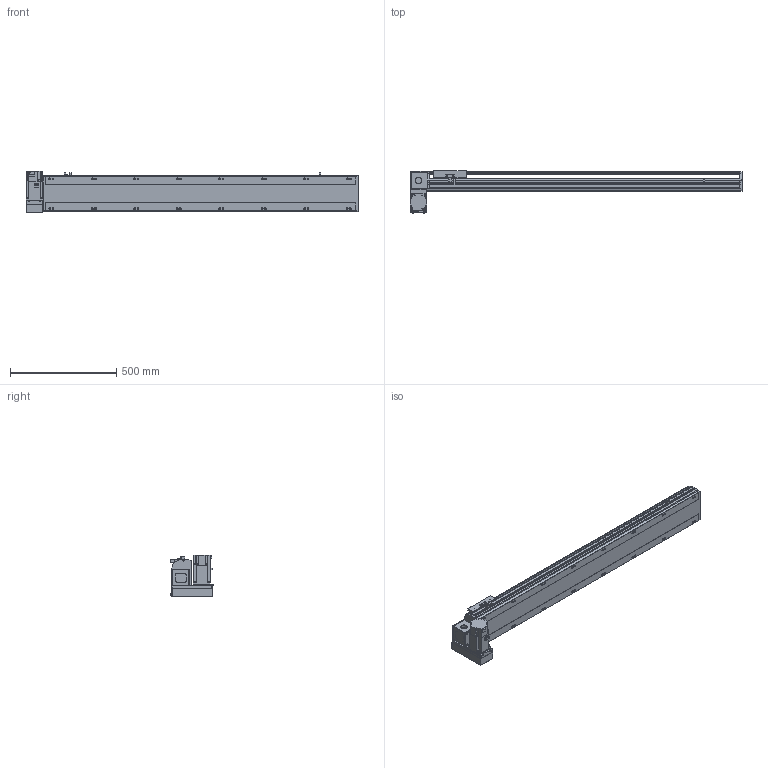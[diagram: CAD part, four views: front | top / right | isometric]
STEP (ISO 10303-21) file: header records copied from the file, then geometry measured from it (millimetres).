
FILE_DESCRIPTION(/* description */ ('STEP AP214'),/* implementation_level */ '2;1');
FILE_NAME(/* name */ 'PBS170-P40-S1200-LD-T75-C1-N(0)',/* time_stamp */ '2022-06-07T09:53:18+02:00',/* author */ ('License CC BY-ND 4.0'),/* organization */ ('CADENAS'),/* preprocessor_version */ 'ST-DEVELOPER v18.102',/* originating_system */ 'PARTsolutions',/* authorisation */ ' ');
FILE_SCHEMA (('MODEL_BASED_INTEGRATED_MANUFACTURING_SCHEMA','AUTOMOTIVE_DESIGN {1 0 10303 214 3 1 1}'));
Length unit declared in the file: millimetre
Products named in the file (7): PBS170-P40-S1200-LD-T75-C1-N(0); PBS170_sensor; PBS170_plant; PBS170_sliser; T75-p1; PBS170T-LD_motors; PBS170-S1200()_body
Assembly tree (8 placements, depth 2):
  PBS170-P40-S1200-LD-T75-C1-N(0)
    PBS170_sensor  x3
    PBS170_plant
    PBS170_sliser
    T75-p1
    PBS170T-LD_motors
    PBS170-S1200()_body
Bounding box: 1563 x 201 x 197.3 mm (x, y, z)
Volume: 12417725.1 mm3; surface area: 1611227.9 mm2
Topology: 8 solids, 8 shells, 1082 faces, 2875 edges, 1874 vertices
Faces by surface type: plane 687, cylinder 339, cone 46, sphere 8, torus 2
Full cylindrical faces by diameter (mm): 3.242 x4, 4 x2, 4.4 x4, 4.5 x6, 4.917 x4, 6 x9, 6.647 x24, 7 x2, 7.5 x4, 8 x8, 8.5 x16, 10 x4, 10.5 x16, 11 x2, 30 x2, 40 x1, 70 x1
Entity records: 31118 total; most frequent: CARTESIAN_POINT 5713, DIRECTION 5300, ORIENTED_EDGE 5028, EDGE_CURVE 2514, AXIS2_PLACEMENT_3D 1837, VERTEX_POINT 1730, LINE 1626, VECTOR 1626
